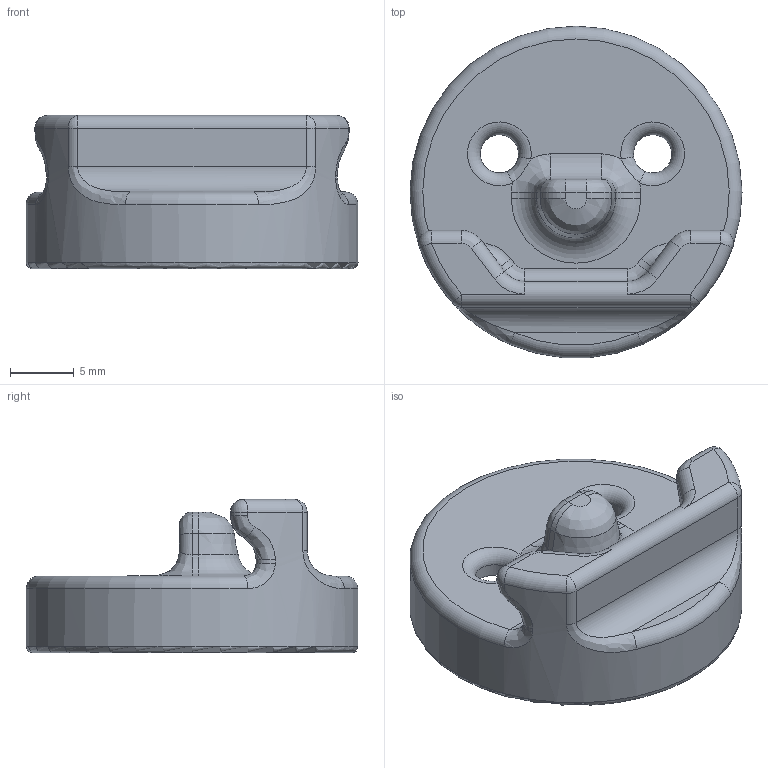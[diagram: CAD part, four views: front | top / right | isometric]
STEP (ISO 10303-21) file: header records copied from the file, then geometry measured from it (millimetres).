
FILE_DESCRIPTION(/* description */ (''),/* implementation_level */ '2;1');
FILE_NAME(/* name */ 'C:/Users/wazab/OneDrive/Works/code-holder.step',/* time_stamp */ '2017-01-11T23:20:09+09:00',/* author */ (''),/* organization */ (''),/* preprocessor_version */ 'ST-DEVELOPER v16.5',/* originating_system */ 'Autodesk Translation Framework v5.2.0.2920',/* authorisation */ '');
FILE_SCHEMA (('AUTOMOTIVE_DESIGN { 1 0 10303 214 3 1 1 }'));
Length unit declared in the file: millimetre
Products named in the file (1): WZB-code-holder v4
Bounding box: 26 x 25.96 x 12 mm (x, y, z)
Volume: 2440.3 mm3; surface area: 2123.2 mm2
Topology: 1 solids, 1 shells, 103 faces, 234 edges, 131 vertices
Faces by surface type: cylinder 41, bspline 23, plane 18, torus 14, sphere 6, cone 1
Full cylindrical faces by diameter (mm): 3 x2, 20 x1, 26 x1
Entity records: 3321 total; most frequent: CARTESIAN_POINT 1060, DIRECTION 496, ORIENTED_EDGE 448, EDGE_CURVE 224, AXIS2_PLACEMENT_3D 211, VERTEX_POINT 128, CIRCLE 116, EDGE_LOOP 112
